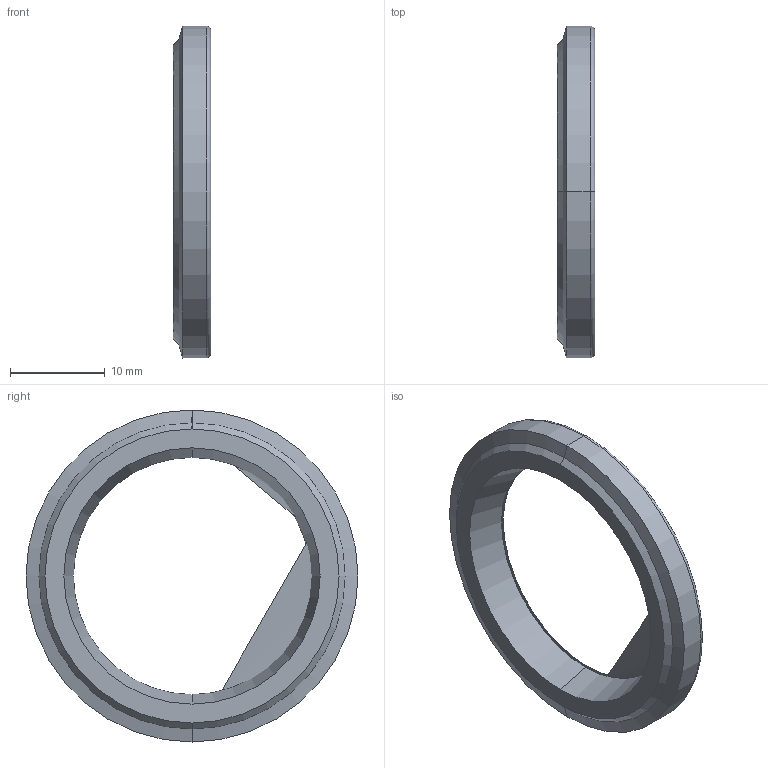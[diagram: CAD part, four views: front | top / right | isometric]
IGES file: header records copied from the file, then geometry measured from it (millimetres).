
Start section: 3D InterOp IGES (Version 21 0 1), Spatial Corp. Copyright (c) 1999-2007.
Global section: file name: CBX-25.igs; native system: Spatial Corp.; preprocessor: 3D InterOp GENERIC/IGES 3.0; author: Noname; organization: Noname; date: 20220217.162005; units: millimetre
Bounding box: 4 x 35 x 35 mm (x, y, z)
Surface area: 1606.7 mm2 (no closed solid volume)
Topology: 0 solids, 0 shells, 20 faces, 80 edges, 80 vertices
Faces by surface type: revolution 16, extrusion 4
